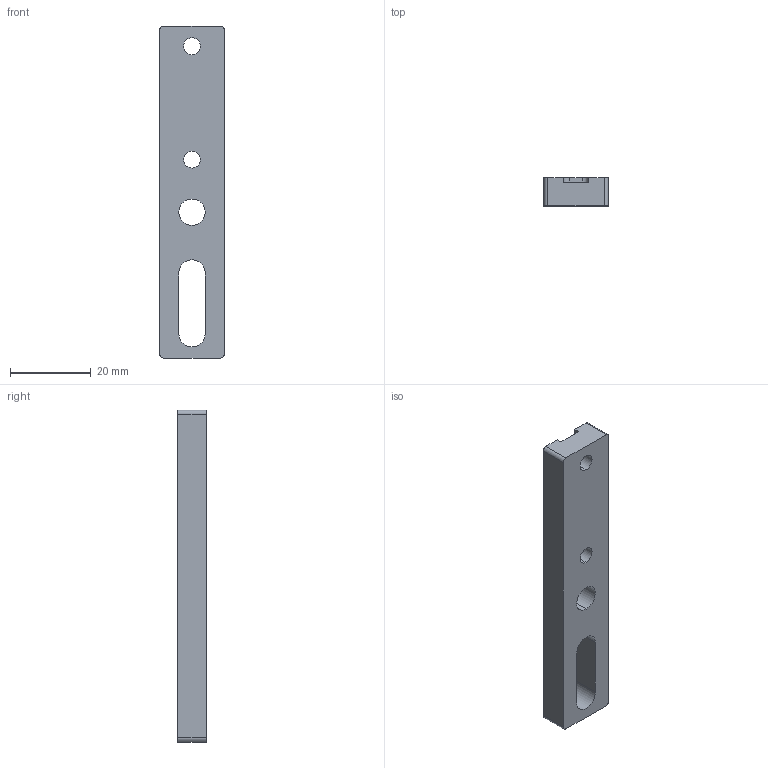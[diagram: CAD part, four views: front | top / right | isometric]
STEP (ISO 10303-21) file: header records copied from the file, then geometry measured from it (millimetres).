
FILE_DESCRIPTION (( 'STEP AP214' ), '1' );
FILE_NAME ('SMBE7-18M6.STEP', '2019-11-19T02:39:14', ( '微软用户' ), ( '微软中国' ), 'SwSTEP 2.0', 'SolidWorks 2016', '' );
FILE_SCHEMA (( 'AUTOMOTIVE_DESIGN' ));
Length unit declared in the file: millimetre
Products named in the file (1): SMBE7-18M6
Bounding box: 16 x 7 x 82 mm (x, y, z)
Volume: 7559.9 mm3; surface area: 4345.1 mm2
Topology: 1 solids, 1 shells, 27 faces, 75 edges, 50 vertices
Faces by surface type: cylinder 15, plane 12
Entity records: 973 total; most frequent: DIRECTION 161, CARTESIAN_POINT 153, ORIENTED_EDGE 150, EDGE_CURVE 75, AXIS2_PLACEMENT_3D 58, VERTEX_POINT 50, VECTOR 45, LINE 45
